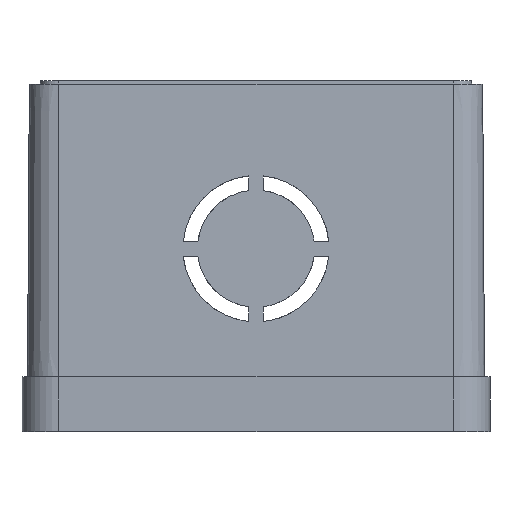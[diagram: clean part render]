
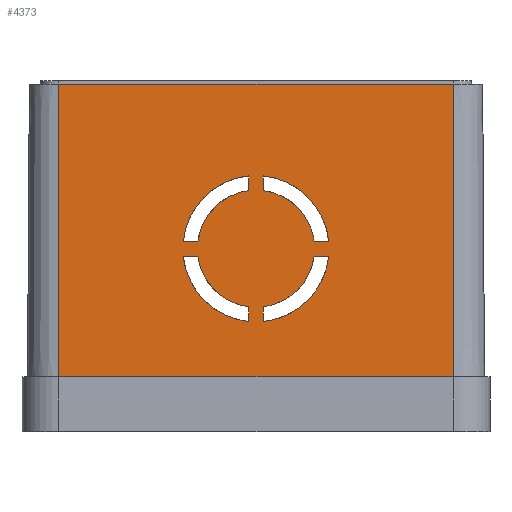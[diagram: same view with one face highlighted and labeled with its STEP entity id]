
A CAD part, left-side view. The second image highlights one B-rep face of the part: STEP entity #4373.
In plain terms, the highlighted planar face has unit normal (-1, 0, 0.006).
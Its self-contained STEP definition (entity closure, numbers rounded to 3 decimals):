
#147=FACE_BOUND('',#744,.T.);
#148=FACE_BOUND('',#745,.T.);
#149=FACE_BOUND('',#746,.T.);
#150=FACE_BOUND('',#747,.T.);
#265=PLANE('',#4820);
#475=FACE_OUTER_BOUND('',#743,.T.);
#743=EDGE_LOOP('',(#3969,#3970,#3971,#3972));
#744=EDGE_LOOP('',(#3973,#3974,#3975,#3976));
#745=EDGE_LOOP('',(#3977,#3978,#3979,#3980));
#746=EDGE_LOOP('',(#3981,#3982,#3983,#3984));
#747=EDGE_LOOP('',(#3985,#3986,#3987,#3988));
#792=ELLIPSE('',#4500,8.,8.);
#793=ELLIPSE('',#4502,8.,8.);
#795=ELLIPSE('',#4505,8.,8.);
#798=ELLIPSE('',#4509,8.,8.);
#799=ELLIPSE('',#4511,10.,10.);
#802=ELLIPSE('',#4515,10.,10.);
#804=ELLIPSE('',#4518,10.,10.);
#879=ELLIPSE('',#4685,10.,10.);
#1053=LINE('',#6290,#1435);
#1057=LINE('',#6299,#1439);
#1061=LINE('',#6308,#1443);
#1065=LINE('',#6317,#1447);
#1069=LINE('',#6326,#1451);
#1073=LINE('',#6335,#1455);
#1077=LINE('',#6344,#1459);
#1081=LINE('',#6353,#1463);
#1363=LINE('',#7371,#1745);
#1371=LINE('',#7394,#1753);
#1372=LINE('',#7397,#1754);
#1373=LINE('',#7398,#1755);
#1435=VECTOR('',#5014,10.);
#1439=VECTOR('',#5020,10.);
#1443=VECTOR('',#5026,10.);
#1447=VECTOR('',#5032,10.);
#1451=VECTOR('',#5038,10.);
#1455=VECTOR('',#5044,10.);
#1459=VECTOR('',#5050,10.);
#1463=VECTOR('',#5056,10.);
#1745=VECTOR('',#5966,10.);
#1753=VECTOR('',#5990,10.);
#1754=VECTOR('',#5993,10.);
#1755=VECTOR('',#5994,10.);
#1853=VERTEX_POINT('',#6287);
#1854=VERTEX_POINT('',#6289);
#1857=VERTEX_POINT('',#6296);
#1858=VERTEX_POINT('',#6298);
#1861=VERTEX_POINT('',#6305);
#1862=VERTEX_POINT('',#6307);
#1865=VERTEX_POINT('',#6314);
#1866=VERTEX_POINT('',#6316);
#1869=VERTEX_POINT('',#6323);
#1870=VERTEX_POINT('',#6325);
#1873=VERTEX_POINT('',#6332);
#1874=VERTEX_POINT('',#6334);
#1877=VERTEX_POINT('',#6341);
#1878=VERTEX_POINT('',#6343);
#1881=VERTEX_POINT('',#6350);
#1882=VERTEX_POINT('',#6352);
#2179=VERTEX_POINT('',#7368);
#2180=VERTEX_POINT('',#7370);
#2187=VERTEX_POINT('',#7392);
#2188=VERTEX_POINT('',#7396);
#2289=EDGE_CURVE('',#1853,#1854,#1053,.T.);
#2293=EDGE_CURVE('',#1857,#1858,#1057,.T.);
#2297=EDGE_CURVE('',#1861,#1862,#1061,.T.);
#2301=EDGE_CURVE('',#1865,#1866,#1065,.T.);
#2305=EDGE_CURVE('',#1869,#1870,#1069,.T.);
#2309=EDGE_CURVE('',#1873,#1874,#1073,.T.);
#2313=EDGE_CURVE('',#1877,#1878,#1077,.T.);
#2317=EDGE_CURVE('',#1881,#1882,#1081,.T.);
#2320=EDGE_CURVE('',#1878,#1869,#792,.T.);
#2321=EDGE_CURVE('',#1862,#1881,#793,.T.);
#2323=EDGE_CURVE('',#1858,#1865,#795,.T.);
#2326=EDGE_CURVE('',#1874,#1853,#798,.T.);
#2327=EDGE_CURVE('',#1877,#1870,#799,.T.);
#2330=EDGE_CURVE('',#1861,#1882,#802,.T.);
#2332=EDGE_CURVE('',#1857,#1866,#804,.T.);
#2589=EDGE_CURVE('',#1873,#1854,#879,.T.);
#2793=EDGE_CURVE('',#2179,#2180,#1363,.T.);
#2805=EDGE_CURVE('',#2179,#2187,#1371,.T.);
#2806=EDGE_CURVE('',#2188,#2187,#1372,.T.);
#2807=EDGE_CURVE('',#2180,#2188,#1373,.T.);
#3969=ORIENTED_EDGE('',*,*,#2793,.F.);
#3970=ORIENTED_EDGE('',*,*,#2805,.T.);
#3971=ORIENTED_EDGE('',*,*,#2806,.F.);
#3972=ORIENTED_EDGE('',*,*,#2807,.F.);
#3973=ORIENTED_EDGE('',*,*,#2332,.T.);
#3974=ORIENTED_EDGE('',*,*,#2301,.F.);
#3975=ORIENTED_EDGE('',*,*,#2323,.F.);
#3976=ORIENTED_EDGE('',*,*,#2293,.F.);
#3977=ORIENTED_EDGE('',*,*,#2330,.T.);
#3978=ORIENTED_EDGE('',*,*,#2317,.F.);
#3979=ORIENTED_EDGE('',*,*,#2321,.F.);
#3980=ORIENTED_EDGE('',*,*,#2297,.F.);
#3981=ORIENTED_EDGE('',*,*,#2289,.F.);
#3982=ORIENTED_EDGE('',*,*,#2326,.F.);
#3983=ORIENTED_EDGE('',*,*,#2309,.F.);
#3984=ORIENTED_EDGE('',*,*,#2589,.T.);
#3985=ORIENTED_EDGE('',*,*,#2305,.F.);
#3986=ORIENTED_EDGE('',*,*,#2320,.F.);
#3987=ORIENTED_EDGE('',*,*,#2313,.F.);
#3988=ORIENTED_EDGE('',*,*,#2327,.T.);
#4373=ADVANCED_FACE('',(#475,#147,#148,#149,#150),#265,.F.);
#4500=AXIS2_PLACEMENT_3D('',#6357,#5062,#5063);
#4502=AXIS2_PLACEMENT_3D('',#6359,#5066,#5067);
#4505=AXIS2_PLACEMENT_3D('',#6362,#5072,#5073);
#4509=AXIS2_PLACEMENT_3D('',#6366,#5080,#5081);
#4511=AXIS2_PLACEMENT_3D('',#6368,#5084,#5085);
#4515=AXIS2_PLACEMENT_3D('',#6372,#5092,#5093);
#4518=AXIS2_PLACEMENT_3D('',#6375,#5098,#5099);
#4685=AXIS2_PLACEMENT_3D('',#6958,#5572,#5573);
#4820=AXIS2_PLACEMENT_3D('',#7395,#5991,#5992);
#5014=DIRECTION('',(-0.006,0.,-1.));
#5020=DIRECTION('',(0.006,0.,1.));
#5026=DIRECTION('',(0.,-1.,0.));
#5032=DIRECTION('',(0.,1.,0.));
#5038=DIRECTION('',(0.,-1.,0.));
#5044=DIRECTION('',(0.,1.,0.));
#5050=DIRECTION('',(-0.006,0.,-1.));
#5056=DIRECTION('',(0.006,0.,1.));
#5062=DIRECTION('center_axis',(1.,0.,-0.006));
#5063=DIRECTION('ref_axis',(0.006,0.,1.));
#5066=DIRECTION('center_axis',(1.,0.,-0.006));
#5067=DIRECTION('ref_axis',(0.006,0.,1.));
#5072=DIRECTION('center_axis',(1.,0.,-0.006));
#5073=DIRECTION('ref_axis',(0.006,0.,1.));
#5080=DIRECTION('center_axis',(1.,0.,-0.006));
#5081=DIRECTION('ref_axis',(0.006,0.,1.));
#5084=DIRECTION('center_axis',(1.,0.,
-0.006));
#5085=DIRECTION('ref_axis',(0.006,0.,1.));
#5092=DIRECTION('center_axis',(1.,0.,
-0.006));
#5093=DIRECTION('ref_axis',(0.006,0.,1.));
#5098=DIRECTION('center_axis',(1.,0.,
-0.006));
#5099=DIRECTION('ref_axis',(0.006,0.,1.));
#5572=DIRECTION('center_axis',(1.,0.,
-0.006));
#5573=DIRECTION('ref_axis',(0.006,0.,1.));
#5966=DIRECTION('',(0.,-1.,0.));
#5990=DIRECTION('',(-0.006,0.,-1.));
#5991=DIRECTION('center_axis',(1.,0.,
-0.006));
#5992=DIRECTION('ref_axis',(-0.006,0.,-1.));
#5993=DIRECTION('',(0.,1.,0.));
#5994=DIRECTION('',(-0.006,0.,-1.));
#6287=CARTESIAN_POINT('',(-51.69,-1.,17.063));
#6289=CARTESIAN_POINT('',(-51.703,-1.,15.05));
#6290=CARTESIAN_POINT('',(-51.672,-1.,20.023));
#6296=CARTESIAN_POINT('',(-51.703,1.,15.05));
#6298=CARTESIAN_POINT('',(-51.69,1.,17.063));
#6299=CARTESIAN_POINT('',(-51.665,1.,21.029));
#6305=CARTESIAN_POINT('',(-51.634,9.95,26.));
#6307=CARTESIAN_POINT('',(-51.634,7.937,26.));
#6308=CARTESIAN_POINT('',(-51.634,3.969,26.));
#6314=CARTESIAN_POINT('',(-51.647,7.937,24.));
#6316=CARTESIAN_POINT('',(-51.647,9.95,24.));
#6317=CARTESIAN_POINT('',(-51.647,4.975,24.));
#6323=CARTESIAN_POINT('',(-51.634,-7.937,26.));
#6325=CARTESIAN_POINT('',(-51.634,-9.95,26.));
#6326=CARTESIAN_POINT('',(-51.634,-4.975,26.));
#6332=CARTESIAN_POINT('',(-51.647,-9.95,24.));
#6334=CARTESIAN_POINT('',(-51.647,-7.937,24.));
#6335=CARTESIAN_POINT('',(-51.647,-3.969,24.));
#6341=CARTESIAN_POINT('',(-51.578,-1.,34.95));
#6343=CARTESIAN_POINT('',(-51.591,-1.,32.937));
#6344=CARTESIAN_POINT('',(-51.616,-1.,28.966));
#6350=CARTESIAN_POINT('',(-51.591,1.,32.937));
#6352=CARTESIAN_POINT('',(-51.578,1.,34.95));
#6353=CARTESIAN_POINT('',(-51.61,1.,29.972));
#6357=CARTESIAN_POINT('Origin',(-51.641,0.,25.));
#6359=CARTESIAN_POINT('Origin',(-51.641,0.,25.));
#6362=CARTESIAN_POINT('Origin',(-51.641,0.,25.));
#6366=CARTESIAN_POINT('Origin',(-51.641,0.,25.));
#6368=CARTESIAN_POINT('Origin',(-51.641,0.,25.));
#6372=CARTESIAN_POINT('Origin',(-51.641,0.,25.));
#6375=CARTESIAN_POINT('Origin',(-51.641,0.,25.));
#6958=CARTESIAN_POINT('Origin',(-51.641,0.,25.));
#7368=CARTESIAN_POINT('',(-51.5,27.,47.5));
#7370=CARTESIAN_POINT('',(-51.5,-27.,47.5));
#7371=CARTESIAN_POINT('',(-51.5,27.,47.5));
#7392=CARTESIAN_POINT('',(-51.75,27.,7.5));
#7394=CARTESIAN_POINT('',(-51.5,27.,47.5));
#7395=CARTESIAN_POINT('Origin',(-51.5,27.,47.5));
#7396=CARTESIAN_POINT('',(-51.75,-27.,7.5));
#7397=CARTESIAN_POINT('',(-51.75,13.5,7.5));
#7398=CARTESIAN_POINT('',(-51.5,-27.,47.5));
